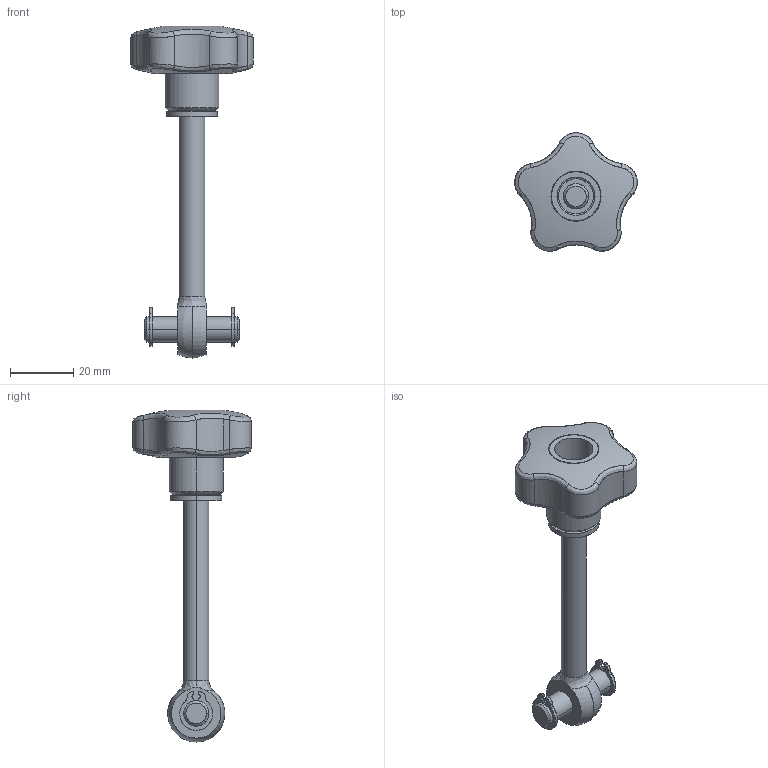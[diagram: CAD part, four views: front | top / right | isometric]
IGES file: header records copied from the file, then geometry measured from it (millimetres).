
Start section: SolidWorks IGES file using analytic representation for surfaces
Global section: file name: X:\11_SW2020-Inv2020\00_全2021-11新製品まで\r\RWK08075\rwk08075.IGS; native system: SolidWorks 2020; preprocessor: SolidWorks 2020; author: ImaoCorp; date: 211026.145630; units: millimetre
Bounding box: 38.63 x 37.33 x 104.6 mm (x, y, z)
Surface area: 8221.6 mm2 (no closed solid volume)
Topology: 0 solids, 0 shells, 136 faces, 2099 edges, 2098 vertices
Faces by surface type: revolution 80, bspline 56
